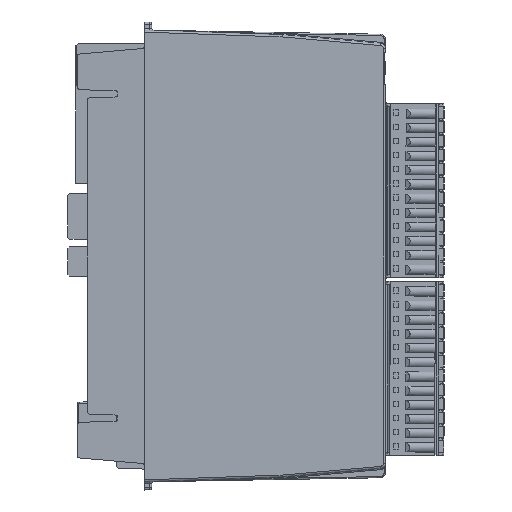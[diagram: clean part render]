
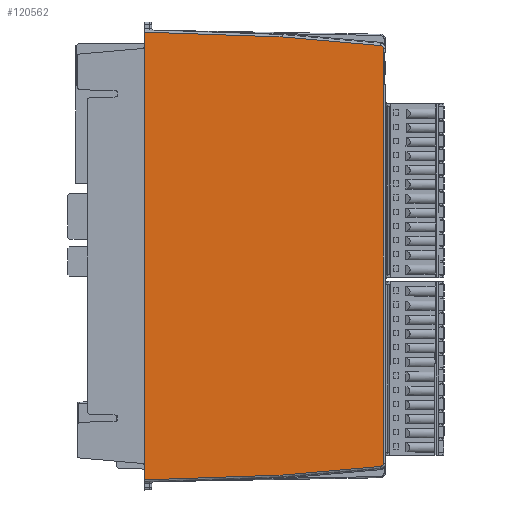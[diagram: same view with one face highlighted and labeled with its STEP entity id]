
A CAD part, left-side view. The second image highlights one B-rep face of the part: STEP entity #120562.
In plain terms, the highlighted planar face has unit normal (-1, -0.018, 0).
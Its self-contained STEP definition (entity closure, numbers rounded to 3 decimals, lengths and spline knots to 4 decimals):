
#984=ELLIPSE('',#128716,0.0315,0.0315);
#985=ELLIPSE('',#128717,0.0315,0.0315);
#5748=PLANE('',#128715);
#10799=FACE_OUTER_BOUND('',#17329,.T.);
#17329=EDGE_LOOP('',(#94398,#94399,#94400,#94401,#94402,#94403,#94404,#94405,
#94406,#94407));
#31851=LINE('',#188674,#44262);
#31852=LINE('',#188676,#44263);
#31853=LINE('',#188678,#44264);
#31854=LINE('',#188680,#44265);
#31855=LINE('',#188682,#44266);
#31856=LINE('',#188686,#44267);
#31857=LINE('',#188690,#44268);
#31858=LINE('',#188691,#44269);
#44262=VECTOR('',#149889,39.3701);
#44263=VECTOR('',#149890,39.3701);
#44264=VECTOR('',#149891,39.3701);
#44265=VECTOR('',#149892,39.3701);
#44266=VECTOR('',#149893,39.3701);
#44267=VECTOR('',#149896,39.3701);
#44268=VECTOR('',#149899,39.3701);
#44269=VECTOR('',#149900,39.3701);
#55539=VERTEX_POINT('',#188672);
#55540=VERTEX_POINT('',#188673);
#55541=VERTEX_POINT('',#188675);
#55542=VERTEX_POINT('',#188677);
#55543=VERTEX_POINT('',#188679);
#55544=VERTEX_POINT('',#188681);
#55545=VERTEX_POINT('',#188683);
#55546=VERTEX_POINT('',#188685);
#55547=VERTEX_POINT('',#188687);
#55548=VERTEX_POINT('',#188689);
#69406=EDGE_CURVE('',#55539,#55540,#31851,.T.);
#69407=EDGE_CURVE('',#55541,#55540,#31852,.T.);
#69408=EDGE_CURVE('',#55541,#55542,#31853,.T.);
#69409=EDGE_CURVE('',#55542,#55543,#31854,.T.);
#69410=EDGE_CURVE('',#55543,#55544,#31855,.T.);
#69411=EDGE_CURVE('',#55544,#55545,#984,.T.);
#69412=EDGE_CURVE('',#55545,#55546,#31856,.T.);
#69413=EDGE_CURVE('',#55546,#55547,#985,.T.);
#69414=EDGE_CURVE('',#55547,#55548,#31857,.T.);
#69415=EDGE_CURVE('',#55548,#55539,#31858,.T.);
#94398=ORIENTED_EDGE('',*,*,#69406,.T.);
#94399=ORIENTED_EDGE('',*,*,#69407,.F.);
#94400=ORIENTED_EDGE('',*,*,#69408,.T.);
#94401=ORIENTED_EDGE('',*,*,#69409,.T.);
#94402=ORIENTED_EDGE('',*,*,#69410,.T.);
#94403=ORIENTED_EDGE('',*,*,#69411,.T.);
#94404=ORIENTED_EDGE('',*,*,#69412,.T.);
#94405=ORIENTED_EDGE('',*,*,#69413,.T.);
#94406=ORIENTED_EDGE('',*,*,#69414,.T.);
#94407=ORIENTED_EDGE('',*,*,#69415,.T.);
#120562=ADVANCED_FACE('',(#10799),#5748,.T.);
#128715=AXIS2_PLACEMENT_3D('',#188671,#149887,#149888);
#128716=AXIS2_PLACEMENT_3D('',#188684,#149894,#149895);
#128717=AXIS2_PLACEMENT_3D('',#188688,#149897,#149898);
#149887=DIRECTION('center_axis',(-1.,-0.017,
0.));
#149888=DIRECTION('ref_axis',(-0.017,1.,0.));
#149889=DIRECTION('',(0.,0.,-1.));
#149890=DIRECTION('',(0.,0.,1.));
#149891=DIRECTION('',(0.,0.,-1.));
#149892=DIRECTION('',(0.017,-0.999,0.035));
#149893=DIRECTION('',(0.017,-0.996,0.087));
#149894=DIRECTION('center_axis',(-1.,-0.017,
0.));
#149895=DIRECTION('ref_axis',(0.017,-1.,0.));
#149896=DIRECTION('',(0.,0.,1.));
#149897=DIRECTION('center_axis',(-1.,-0.017,
0.));
#149898=DIRECTION('ref_axis',(0.017,-1.,0.));
#149899=DIRECTION('',(-0.017,0.996,0.087));
#149900=DIRECTION('',(-0.017,0.999,0.035));
#188671=CARTESIAN_POINT('Origin',(-0.0296,-0.489,
-2.0669));
#188672=CARTESIAN_POINT('',(-0.0227,-0.8827,0.1083));
#188673=CARTESIAN_POINT('',(-0.0227,-0.8827,-0.0312));
#188674=CARTESIAN_POINT('',(-0.0227,-0.8827,0.128));
#188675=CARTESIAN_POINT('',(-0.0227,-0.8827,-4.1027));
#188676=CARTESIAN_POINT('',(-0.0227,-0.8827,-7.5932));
#188677=CARTESIAN_POINT('',(-0.0227,-0.8827,-4.2421));
#188678=CARTESIAN_POINT('',(-0.0227,-0.8827,0.128));
#188679=CARTESIAN_POINT('',(0.0007,-2.2205,-4.1954));
#188680=CARTESIAN_POINT('',(-0.0282,-0.5654,-4.2532));
#188681=CARTESIAN_POINT('',(0.0174,-3.1772,-4.1117));
#188682=CARTESIAN_POINT('',(-0.0261,-0.6869,-4.3296));
#188683=CARTESIAN_POINT('',(0.0179,-3.2059,-4.0803));
#188684=CARTESIAN_POINT('Origin',(0.0173,-3.1744,
-4.0803));
#188685=CARTESIAN_POINT('',(0.0179,-3.2059,-0.0535));
#188686=CARTESIAN_POINT('',(0.0179,-3.2059,-0.0535));
#188687=CARTESIAN_POINT('',(0.0174,-3.1772,-0.0221));
#188688=CARTESIAN_POINT('Origin',(0.0173,-3.1744,
-0.0535));
#188689=CARTESIAN_POINT('',(0.0007,-2.2205,0.0616));
#188690=CARTESIAN_POINT('',(-0.0261,-0.6869,0.1957));
#188691=CARTESIAN_POINT('',(-0.0282,-0.5654,0.1194));
